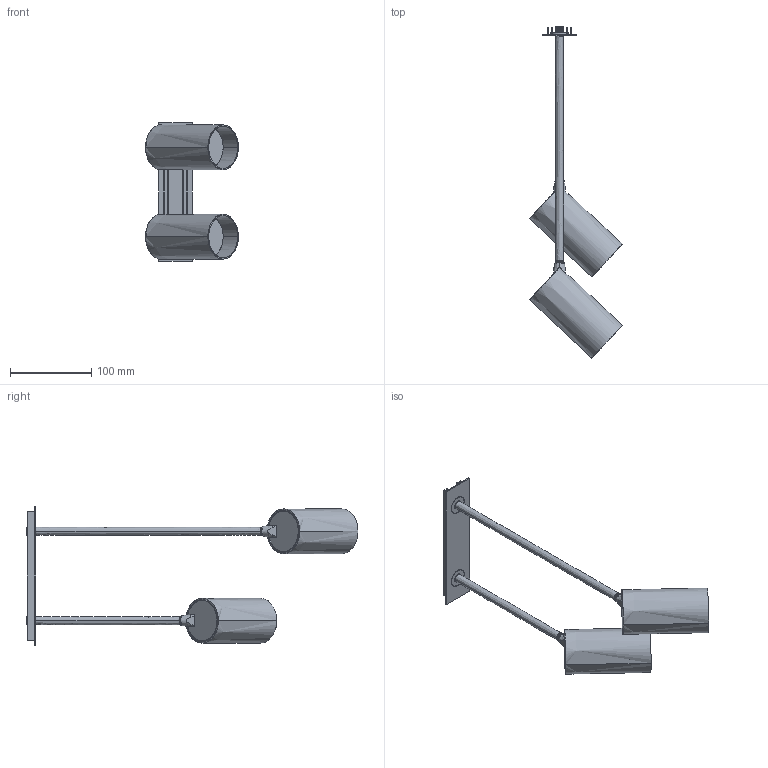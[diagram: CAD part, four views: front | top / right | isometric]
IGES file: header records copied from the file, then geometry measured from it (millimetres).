
Start section: SolidWorks IGES file using analytic representation for surfaces
Global section: file name: Z:\Modele 3D_WWW\_KOLEKCJE_WWW\MONO\MONO-SURFACE-LONG\MONO-SURFACE-LONG-II-7736-7740\MONO-SURFACE-LONG-II-7736-7740.IGS; native system: SolidWorks 2021; preprocessor: SolidWorks 2021; author: gabriela.tworek; date: 210730.085618; units: millimetre
Bounding box: 114.26 x 408.39 x 170 mm (x, y, z)
Surface area: 154681.9 mm2 (no closed solid volume)
Topology: 0 solids, 0 shells, 733 faces, 10940 edges, 10940 vertices
Faces by surface type: revolution 397, bspline 336
